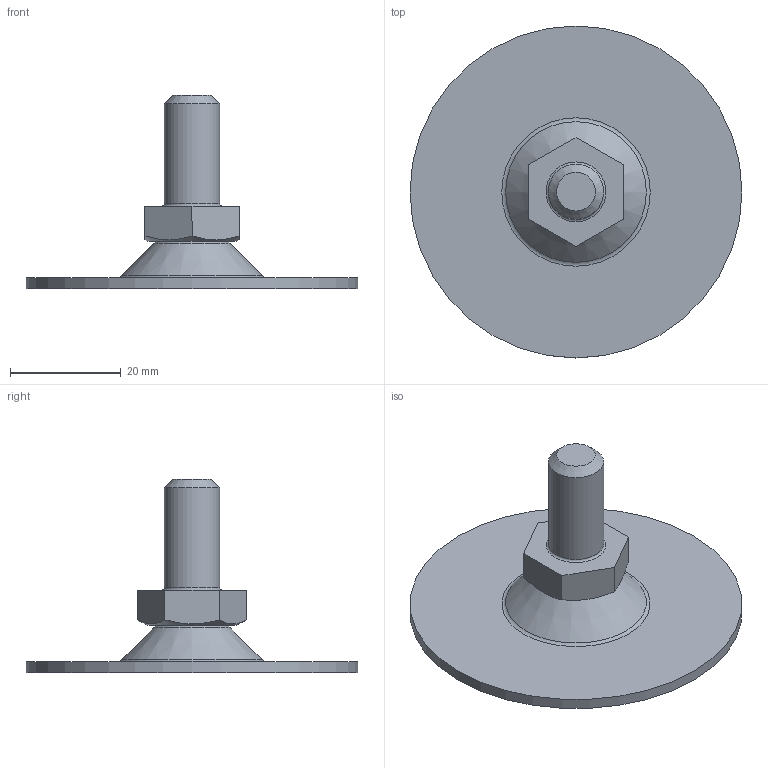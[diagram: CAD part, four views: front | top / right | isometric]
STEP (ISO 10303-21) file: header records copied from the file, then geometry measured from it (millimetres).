
FILE_DESCRIPTION(('STEP AP203'), '1');
FILE_NAME('A00050.1061016', '', ('UNSPECIFIED'), ('UNSPECIFIED'), 'C3D Converter', 'C3D Toolkit', '');
FILE_SCHEMA(('CONFIG_CONTROL_DESIGN'));
Length unit declared in the file: millimetre
Products named in the file (4): A00050.1061020; A00050.1160
Assembly tree (3 placements, depth 2):
  A00050.1061020
    A00050.1160
    (unnamed)
    (unnamed)
Bounding box: 60 x 60 x 34.93 mm (x, y, z)
Volume: 9065.7 mm3; surface area: 8215.2 mm2
Topology: 3 solids, 3 shells, 58 faces, 130 edges, 82 vertices
Faces by surface type: plane 28, torus 8, bspline 8, cone 7, cylinder 6, sphere 1
Full cylindrical faces by diameter (mm): 3.3 x1, 4 x1, 4.5 x1, 8 x1, 10 x1, 60 x1
Entity records: 2171 total; most frequent: CARTESIAN_POINT 784, DIRECTION 242, ORIENTED_EDGE 214, EDGE_CURVE 107, AXIS2_PLACEMENT_3D 95, EDGE_LOOP 86, VERTEX_POINT 81, ADVANCED_FACE 58
